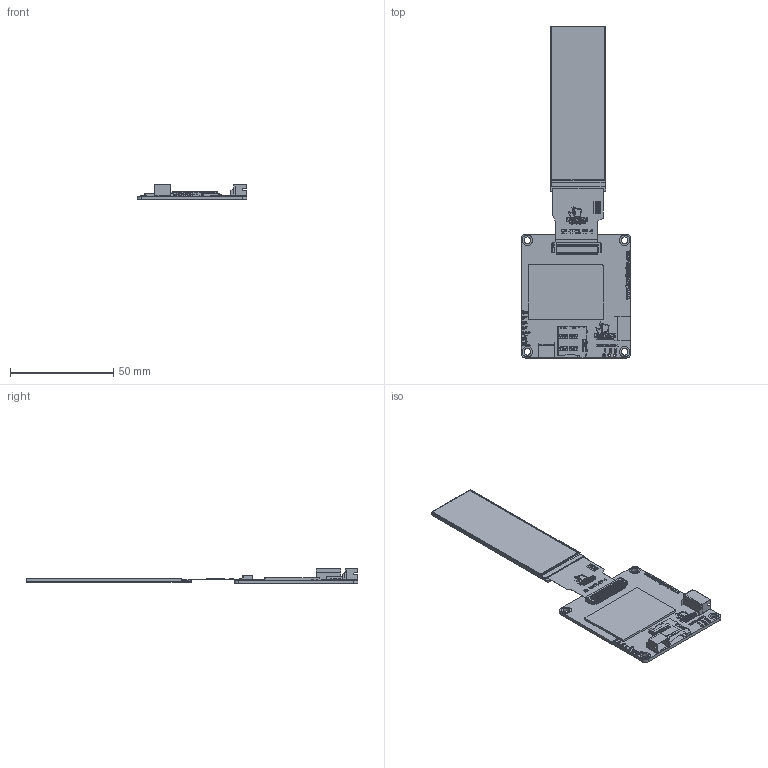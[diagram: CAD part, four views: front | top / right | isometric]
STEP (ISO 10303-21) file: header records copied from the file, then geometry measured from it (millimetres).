
FILE_DESCRIPTION (( 'STEP AP214' ), '1' );
FILE_NAME ('ER-TFT2.99-1-5982.STEP', '2024-07-15T09:43:22', ( '微软用户' ), ( '微软中国' ), 'SwSTEP 2.0', 'SolidWorks 2023', '' );
FILE_SCHEMA (( 'AUTOMOTIVE_DESIGN' ));
Length unit declared in the file: millimetre
Products named in the file (3): ER-TFT2.99-1-5982; ER-PCBA5982-1; ER-TFT2.99-1
Assembly tree (2 placements, depth 2):
  ER-TFT2.99-1-5982
    ER-PCBA5982-1
    ER-TFT2.99-1
Bounding box: 53 x 160.74 x 7.2 mm (x, y, z)
Volume: 10225.8 mm3; surface area: 17340.5 mm2
Topology: 158 solids, 158 shells, 5090 faces, 14744 edges, 9703 vertices
Faces by surface type: plane 3543, bspline 1073, cylinder 474
Entity records: 242758 total; most frequent: CARTESIAN_POINT 77059, ORIENTED_EDGE 29488, DIRECTION 21438, EDGE_CURVE 14744, LINE 11602, VECTOR 11602, VERTEX_POINT 9703, EDGE_LOOP 5391
